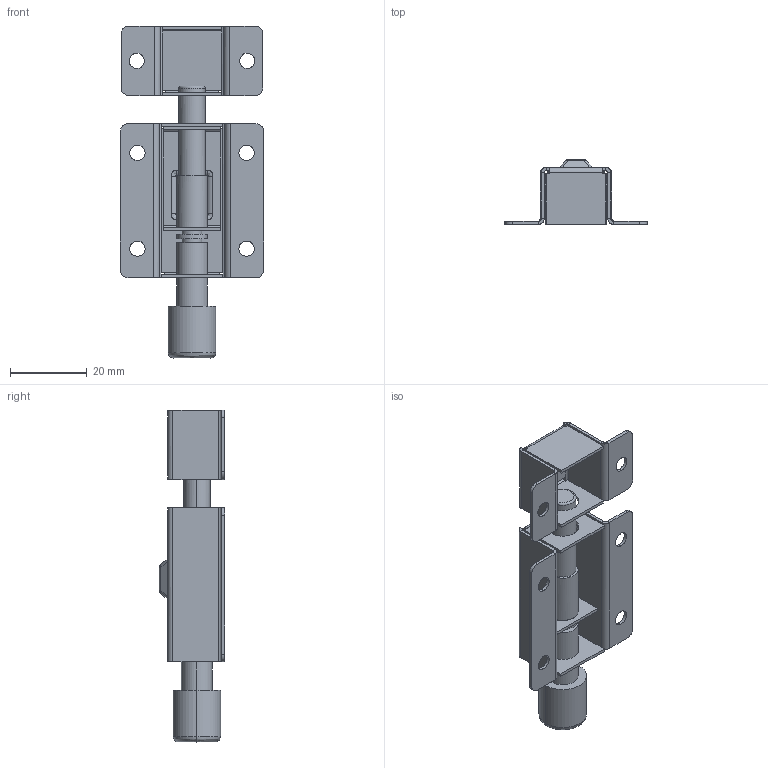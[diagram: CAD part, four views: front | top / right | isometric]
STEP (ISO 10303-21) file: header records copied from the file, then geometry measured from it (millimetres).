
FILE_DESCRIPTION(/* description */ (''),/* implementation_level */ '2;1');
FILE_NAME(/* name */ 'L-101-3D',/* time_stamp */ '2023-05-05T06:42:54+08:00',/* author */ (''),/* organization */ (''),/* preprocessor_version */ 'ST-DEVELOPER v16.5',/* originating_system */ 'Rhino 7.28',/* authorisation */ '');
FILE_SCHEMA (('CONFIG_CONTROL_DESIGN'));
Length unit declared in the file: millimetre
Products named in the file (1): Document
Bounding box: 37.3 x 17 x 86.58 mm (x, y, z)
Volume: 7969.9 mm3; surface area: 11883 mm2
Topology: 3 solids, 3 shells, 263 faces, 604 edges, 348 vertices
Faces by surface type: plane 155, cylinder 92, bspline 16
Entity records: 6993 total; most frequent: CARTESIAN_POINT 2773, ORIENTED_EDGE 1192, EDGE_CURVE 596, B_SPLINE_CURVE_WITH_KNOTS 396, VERTEX_POINT 348, EDGE_LOOP 294, ADVANCED_FACE 263, FACE_OUTER_BOUND 263
